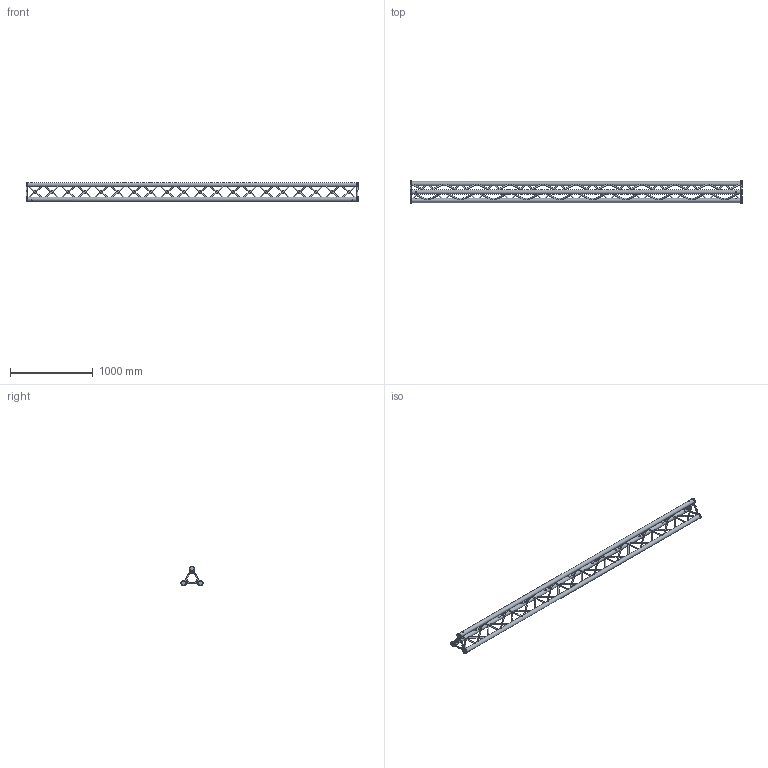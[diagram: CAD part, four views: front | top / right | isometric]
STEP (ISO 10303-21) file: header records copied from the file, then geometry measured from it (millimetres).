
FILE_DESCRIPTION(/* description */ (''),/* implementation_level */ '2;1');
FILE_NAME(/* name */ 'C:\Users\stephan\Desktop\A03\112040017.stp',/* time_stamp */ '2016-01-20T15:14:47+01:00',/* author */ ('Stephan'),/* organization */ (''),/* preprocessor_version */ 'ST-DEVELOPER v15.6',/* originating_system */ 'Autodesk Inventor 2015',/* authorisation */ '');
FILE_SCHEMA (('AUTOMOTIVE_DESIGN { 1 0 10303 214 3 1 1 }'));
Length unit declared in the file: millimetre
Products named in the file (1): 160025658
Bounding box: 4000 x 266.3 x 239.1 mm (x, y, z)
Volume: 26164956.3 mm3; surface area: 2559669.4 mm2
Topology: 67 solids, 67 shells, 529 faces, 1005 edges, 624 vertices
Faces by surface type: plane 342, cylinder 163, cone 12, torus 12
Full cylindrical faces by diameter (mm): 10.5 x6, 11.5 x12, 12.7 x60, 23.5 x6, 50.8 x3, 51.3 x6, 63.3 x6
Entity records: 15073 total; most frequent: CARTESIAN_POINT 3626, DIRECTION 2196, ORIENTED_EDGE 1968, AXIS2_PLACEMENT_3D 930, EDGE_CURVE 864, EDGE_LOOP 816, VERTEX_POINT 600, STYLED_ITEM 528
